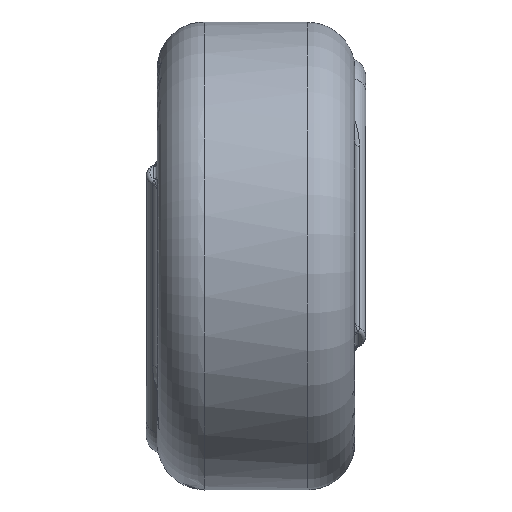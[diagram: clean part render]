
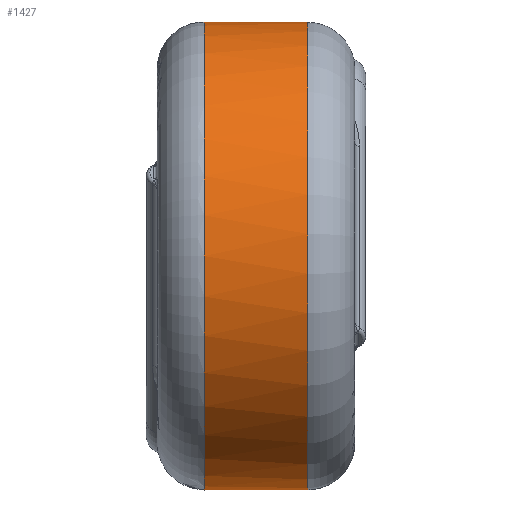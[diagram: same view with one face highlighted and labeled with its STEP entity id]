
A CAD part, left-side view. The second image highlights one B-rep face of the part: STEP entity #1427.
In plain terms, the highlighted cylindrical face has radius 12.45 mm (diameter 24.9 mm), a full revolution.
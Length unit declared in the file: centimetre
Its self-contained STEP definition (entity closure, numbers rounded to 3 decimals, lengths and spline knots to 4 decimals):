
#972=CARTESIAN_POINT('',(1.245,0.72,0.));
#973=VERTEX_POINT('',#972);
#974=CARTESIAN_POINT('',(0.0,0.72,0.0));
#975=DIRECTION('',(0.0,1.0,0.0));
#976=DIRECTION('',(-1.0,0.0,0.0));
#977=AXIS2_PLACEMENT_3D('',#974,#975,#976);
#978=CIRCLE('',#977,1.245);
#979=EDGE_CURVE('',#973,#973,#978,.T.);
#1318=CARTESIAN_POINT('',(1.245,0.169,0.));
#1319=VERTEX_POINT('',#1318);
#1320=CARTESIAN_POINT('',(0.0,0.169,0.0));
#1321=DIRECTION('',(0.0,-1.0,0.0));
#1322=DIRECTION('',(-1.0,0.0,0.0));
#1323=AXIS2_PLACEMENT_3D('',#1320,#1321,#1322);
#1324=CIRCLE('',#1323,1.245);
#1325=EDGE_CURVE('',#1319,#1319,#1324,.T.);
#1416=CARTESIAN_POINT('',(0.0,0.4445,0.0));
#1417=DIRECTION('',(0.0,1.0,0.0));
#1418=DIRECTION('',(-1.0,0.0,0.0));
#1419=AXIS2_PLACEMENT_3D('',#1416,#1417,#1418);
#1420=CYLINDRICAL_SURFACE('',#1419,1.245);
#1421=ORIENTED_EDGE('',*,*,#979,.F.);
#1422=EDGE_LOOP('',(#1421));
#1423=FACE_OUTER_BOUND('',#1422,.T.);
#1424=ORIENTED_EDGE('',*,*,#1325,.F.);
#1425=EDGE_LOOP('',(#1424));
#1426=FACE_BOUND('',#1425,.T.);
#1427=ADVANCED_FACE('',(#1423,#1426),#1420,.T.);
